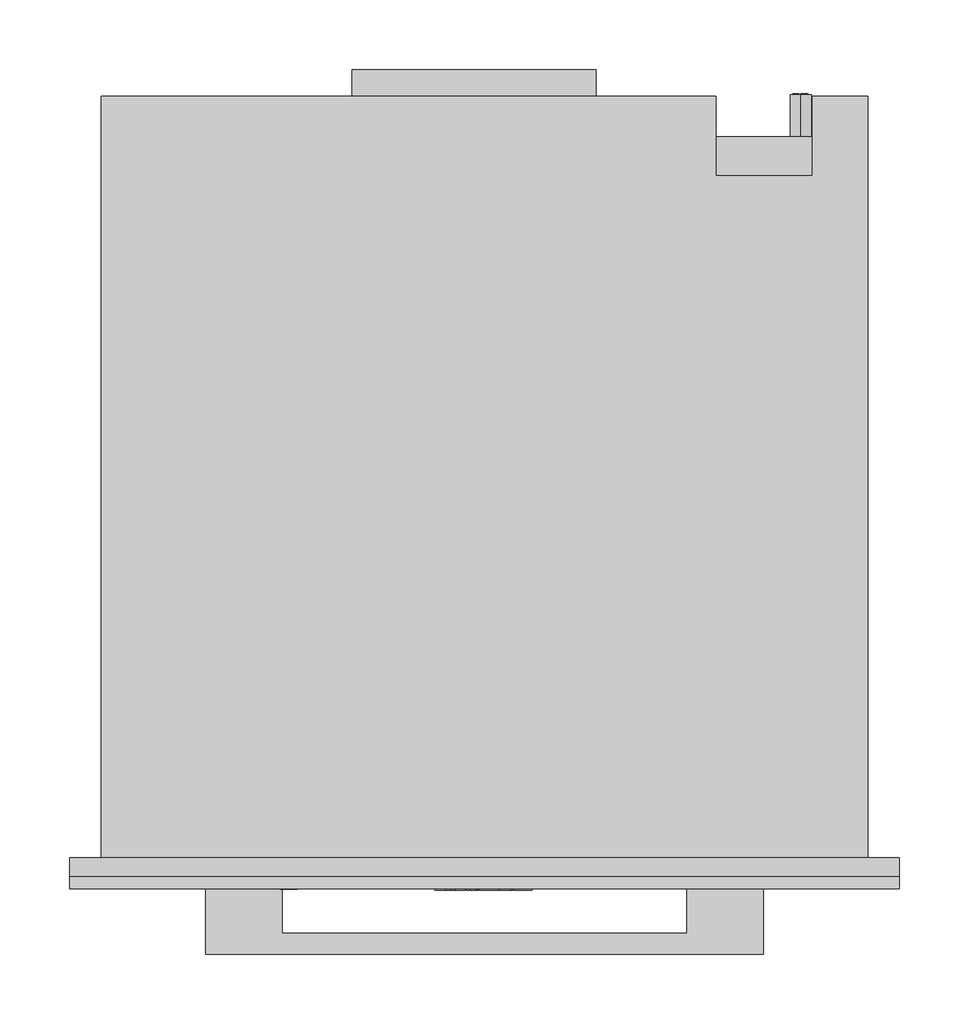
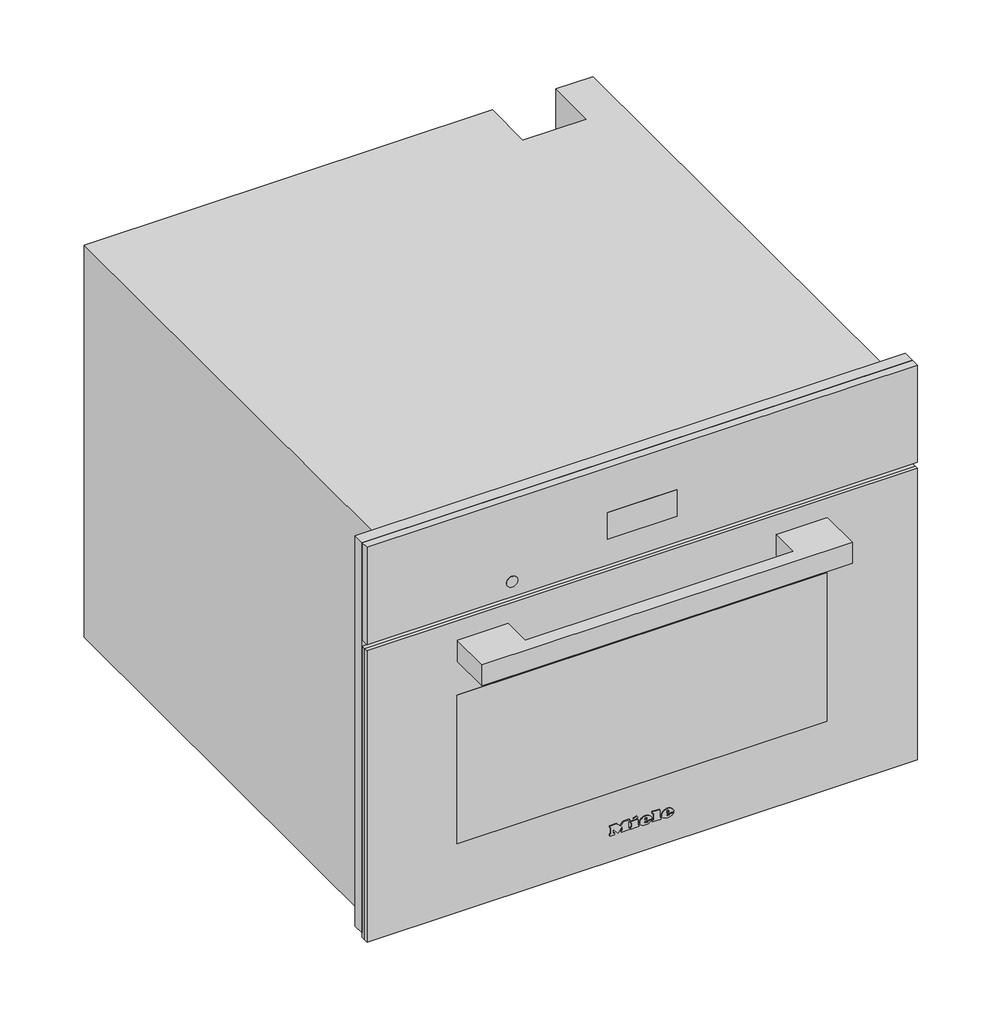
# Not in any storey: 1 proxy.
"""IFC4 building model written with IfcOpenShell, lengths in millimetres."""

from ifc_helpers import new_model, si_unit, origin, place, context, project, spatial, transform, mapped, element, save
from components import specialty_equipment_715cd1da

model = new_model("IFC4")

# Units and contexts
model_context = context("Model", 3, world=origin())
ifc_project = project(units=[si_unit("LENGTHUNIT", "METRE", prefix="MILLI")], contexts=[model_context])

# Site, building
site = spatial("IfcSite", under=ifc_project)
building = spatial("IfcBuilding", under=site)

# Proxy
placement = place(None, origin())
specialty_equipment_shape = specialty_equipment_715cd1da(model_context)
element("IfcBuildingElementProxy", 1, Name="11876960_USA_DGC7440_GRGR : 23744032_USA_11876960_DGC7440_GRGR", ObjectType="11876960_USA_DGC7440_GRGR : 23744032_USA_11876960_DGC7440_GRGR", at=placement, inside=building, context=model_context, shape_type="MappedRepresentation", body=[
    mapped(specialty_equipment_shape, transform((0.0, 0.0, 0.0), x_axis=(1.0, 0.0, 0.0), y_axis=(0.0, 1.0, 0.0), z_axis=(0.0, 0.0, 1.0))),
])

save(model, "model.ifc")
